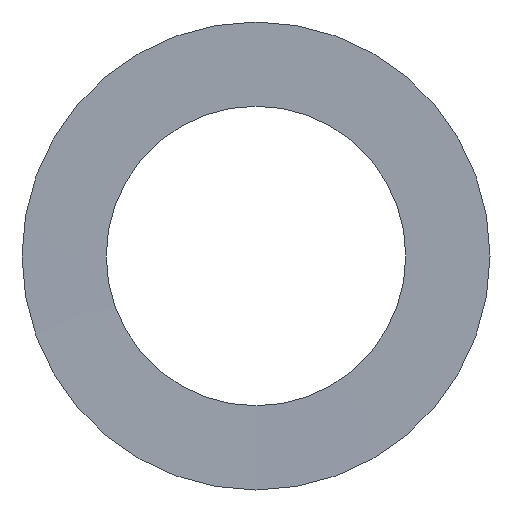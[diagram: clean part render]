
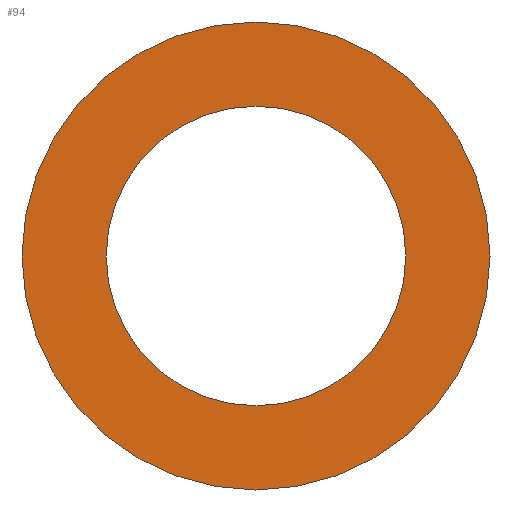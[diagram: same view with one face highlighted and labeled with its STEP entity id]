
A CAD part, front view. The second image highlights one B-rep face of the part: STEP entity #94.
In plain terms, the highlighted conical face has half-angle 89.647 degrees and reference radius 2.05 mm.
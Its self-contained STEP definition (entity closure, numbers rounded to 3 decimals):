
#94=ADVANCED_FACE('',(#148,#150),#152,.F.);
#148=FACE_OUTER_BOUND('',#149,.T.);
#149=EDGE_LOOP('',(#174));
#150=FACE_OUTER_BOUND('',#151,.T.);
#151=EDGE_LOOP('',(#175));
#152=CONICAL_SURFACE('',#153,2.05,1.565);
#153=AXIS2_PLACEMENT_3D('',#154,#155,#156);
#154=CARTESIAN_POINT('',(0.,-3.203,0.));
#155=DIRECTION('',(0.,-1.,0.));
#156=DIRECTION('',(1.,0.,0.));
#174=ORIENTED_EDGE('',*,*,#183,.T.);
#175=ORIENTED_EDGE('',*,*,#182,.F.);
#182=EDGE_CURVE('',#192,#192,#193,.T.);
#183=EDGE_CURVE('',#194,#194,#195,.T.);
#192=VERTEX_POINT('',#216);
#193=CIRCLE('',#217,1.6);
#194=VERTEX_POINT('',#221);
#195=CIRCLE('',#222,2.5);
#216=CARTESIAN_POINT('',(1.6,-3.2,0.));
#217=AXIS2_PLACEMENT_3D('',#218,#219,#220);
#218=CARTESIAN_POINT('',(0.,-3.2,0.));
#219=DIRECTION('',(0.,-1.,0.));
#220=DIRECTION('',(1.,0.,0.));
#221=CARTESIAN_POINT('',(2.5,-3.206,0.));
#222=AXIS2_PLACEMENT_3D('',#223,#224,#225);
#223=CARTESIAN_POINT('',(0.,-3.206,0.));
#224=DIRECTION('',(0.,-1.,0.));
#225=DIRECTION('',(1.,0.,0.));
